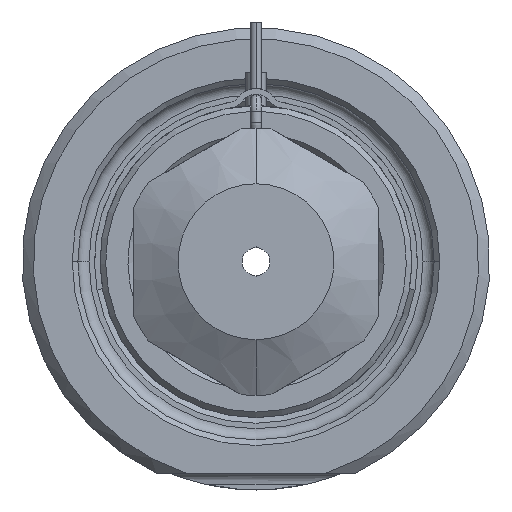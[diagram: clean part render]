
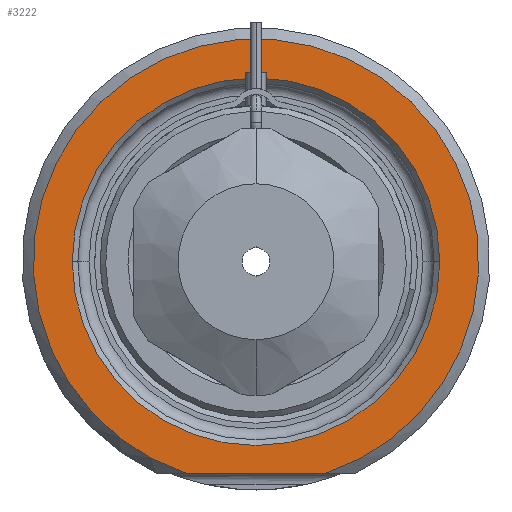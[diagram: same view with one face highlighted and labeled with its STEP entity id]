
A CAD part, front view. The second image highlights one B-rep face of the part: STEP entity #3222.
In plain terms, the highlighted planar face has unit normal (0, -1, 0).
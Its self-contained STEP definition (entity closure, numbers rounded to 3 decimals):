
#1=DIRECTION('',(1.,0.,0.));
#2=VECTOR('',#1,12.49);
#3=CARTESIAN_POINT('',(-6.245,0.,-19.));
#4=LINE('',#3,#2);
#5=CARTESIAN_POINT('',(0.,0.,0.));
#6=DIRECTION('',(0.,1.,0.));
#7=DIRECTION('',(-1.,0.,0.));
#8=AXIS2_PLACEMENT_3D('',#5,#6,#7);
#10=CARTESIAN_POINT('',(0.,0.,0.));
#11=DIRECTION('',(0.,1.,0.));
#12=DIRECTION('',(1.,0.,0.));
#13=AXIS2_PLACEMENT_3D('',#10,#11,#12);
#119=CARTESIAN_POINT('',(0.,0.,0.));
#120=DIRECTION('',(0.,-1.,0.));
#121=DIRECTION('',(0.312,0.,-0.95));
#122=AXIS2_PLACEMENT_3D('',#119,#120,#121);
#2680=CARTESIAN_POINT('',(-16.5,0.,0.));
#2681=CARTESIAN_POINT('',(16.5,0.,0.));
#2682=VERTEX_POINT('',#2680);
#2683=VERTEX_POINT('',#2681);
#2720=CARTESIAN_POINT('',(-6.245,0.,-19.));
#2721=CARTESIAN_POINT('',(6.245,0.,-19.));
#2722=VERTEX_POINT('',#2720);
#2723=VERTEX_POINT('',#2721);
#3205=CARTESIAN_POINT('',(0.,0.,0.));
#3206=DIRECTION('',(0.,-1.,0.));
#3207=DIRECTION('',(1.,0.,0.));
#3208=AXIS2_PLACEMENT_3D('',#3205,#3206,#3207);
#3209=PLANE('',#3208);
#3211=ORIENTED_EDGE('',*,*,#3210,.F.);
#3213=ORIENTED_EDGE('',*,*,#3212,.F.);
#3214=EDGE_LOOP('',(#3211,#3213));
#3215=FACE_OUTER_BOUND('',#3214,.F.);
#3217=ORIENTED_EDGE('',*,*,#3216,.F.);
#3219=ORIENTED_EDGE('',*,*,#3218,.F.);
#3220=EDGE_LOOP('',(#3217,#3219));
#3221=FACE_BOUND('',#3220,.F.);
#3222=ADVANCED_FACE('',(#3215,#3221),#3209,.T.);
#9=CIRCLE('',#8,16.5);
#14=CIRCLE('',#13,16.5);
#123=CIRCLE('',#122,20.);
#3210=EDGE_CURVE('',#2722,#2723,#4,.T.);
#3212=EDGE_CURVE('',#2723,#2722,#123,.T.);
#3216=EDGE_CURVE('',#2682,#2683,#9,.T.);
#3218=EDGE_CURVE('',#2683,#2682,#14,.T.);
